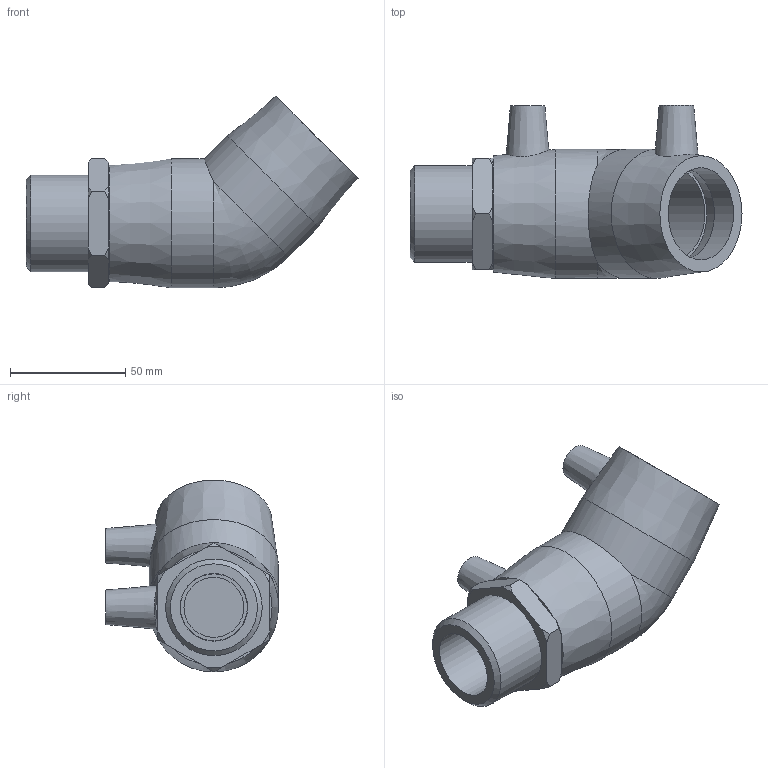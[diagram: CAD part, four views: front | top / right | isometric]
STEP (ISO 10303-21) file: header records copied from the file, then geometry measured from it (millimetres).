
FILE_DESCRIPTION(/* description */ ('PLASSON 45° ELBOW TRANSITION MALE 40-1.1/4"'),/* implementation_level */ '2;1');
FILE_NAME(/* name */ 'C:\Dropbox\KIMPROJECTS-Inventor\99-16-3568-Processing\ElectroFusion Fittings\02.02.20\492604\492604040013.ipt.stp',/* time_stamp */ '2020-02-02T12:19:57+02:00',/* author */ ('KIM'),/* organization */ (''),/* preprocessor_version */ 'ST-DEVELOPER v15.6',/* originating_system */ 'Autodesk Inventor 2015',/* authorisation */ '');
FILE_SCHEMA (('AUTOMOTIVE_DESIGN { 1 0 10303 214 3 1 1 }'));
Length unit declared in the file: millimetre
Products named in the file (1): 492604040013
Bounding box: 144 x 75 x 83.17 mm (x, y, z)
Volume: 197237.1 mm3; surface area: 46554.9 mm2
Topology: 1 solids, 2 shells, 59 faces, 133 edges, 88 vertices
Faces by surface type: plane 24, cone 19, cylinder 15, bspline 1
Full cylindrical faces by diameter (mm): 4 x2, 10 x2, 26 x2, 29 x1, 29.337 x1, 40 x4, 41.91 x1, 56 x2
Entity records: 1494 total; most frequent: CARTESIAN_POINT 363, DIRECTION 236, ORIENTED_EDGE 188, AXIS2_PLACEMENT_3D 109, EDGE_LOOP 97, EDGE_CURVE 94, VERTEX_POINT 75, FACE_OUTER_BOUND 59
